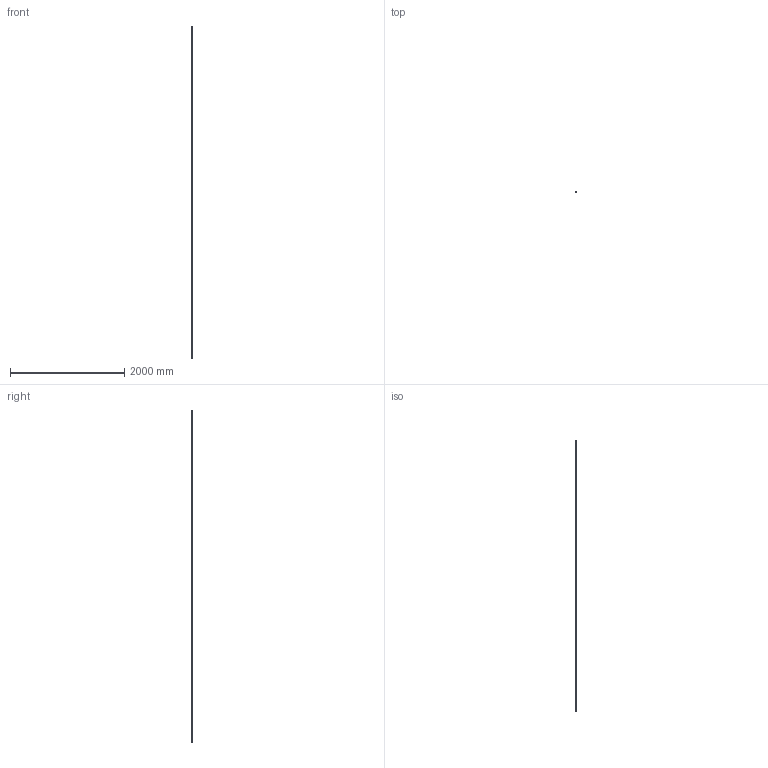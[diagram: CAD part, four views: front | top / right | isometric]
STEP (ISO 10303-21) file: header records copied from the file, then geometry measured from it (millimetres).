
FILE_DESCRIPTION((''),'2;1');
FILE_NAME('KUGELSCHIENE_CS_ASM','2021-10-14T09:51:27',('ac91sw'),(''),'CREO PARAMETRIC BY PTC INC, 2020044','CREO PARAMETRIC BY PTC INC, 2020044','');
FILE_SCHEMA(('AUTOMOTIVE_DESIGN { 1 0 10303 214 1 1 1 1 }'));
Length unit declared in the file: millimetre
Products named in the file (3): KUGELSCHIENE_CS_SKEL; KUGELSCHIENE_CS_RAIL1; KUGELSCHIENE_CS_ASM
Assembly tree (2 placements, depth 2):
  KUGELSCHIENE_CS_ASM
    KUGELSCHIENE_CS_SKEL
    KUGELSCHIENE_CS_RAIL1
Bounding box: 20 x 20.55 x 5816 mm (x, y, z)
Volume: 1797247.8 mm3; surface area: 526269.6 mm2
Topology: 1 solids, 98 shells, 757 faces, 1926 edges, 1171 vertices
Faces by surface type: cylinder 392, cone 202, plane 163
Entity records: 23446 total; most frequent: DIRECTION 4230, CARTESIAN_POINT 3735, ORIENTED_EDGE 3076, AXIS2_PLACEMENT_3D 1750, EDGE_CURVE 1732, VERTEX_POINT 1171, CIRCLE 986, EDGE_LOOP 951
